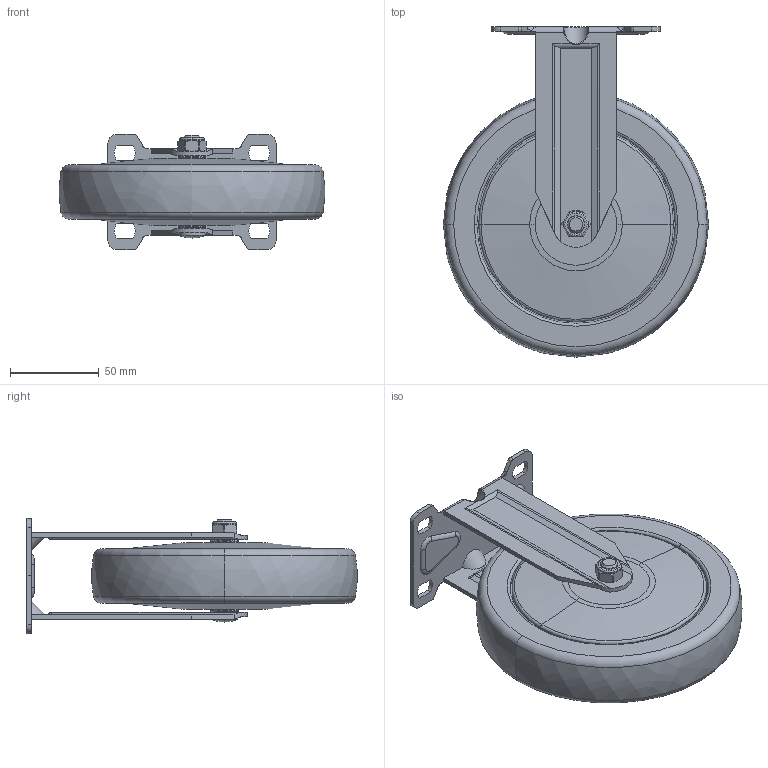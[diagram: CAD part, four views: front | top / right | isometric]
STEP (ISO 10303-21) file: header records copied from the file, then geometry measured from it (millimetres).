
FILE_DESCRIPTION((''),'2;1');
FILE_NAME('57206-576-77_ASM','2021-01-05T',('lenovo'),(''),'PRO/ENGINEER BY PARAMETRIC TECHNOLOGY CORPORATION, 2010280','PRO/ENGINEER BY PARAMETRIC TECHNOLOGY CORPORATION, 2010280','');
FILE_SCHEMA(('CONFIG_CONTROL_DESIGN'));
Length unit declared in the file: millimetre
Products named in the file (5): 5726-301; 576-77; 5710-020; 5710-031; 57206-576-77_ASM
Assembly tree (4 placements, depth 2):
  57206-576-77_ASM
    5726-301
    576-77
    5710-020
    5710-031
Bounding box: 149.8 x 186.4 x 65 mm (x, y, z)
Volume: 609358.5 mm3; surface area: 87414.8 mm2
Topology: 4 solids, 4 shells, 249 faces, 623 edges, 392 vertices
Faces by surface type: plane 81, cylinder 80, bspline 34, torus 30, cone 22, sphere 2
Entity records: 9673 total; most frequent: CARTESIAN_POINT 3744, ORIENTED_EDGE 1242, DIRECTION 1198, EDGE_CURVE 621, AXIS2_PLACEMENT_3D 470, VERTEX_POINT 392, EDGE_LOOP 275, VECTOR 258
